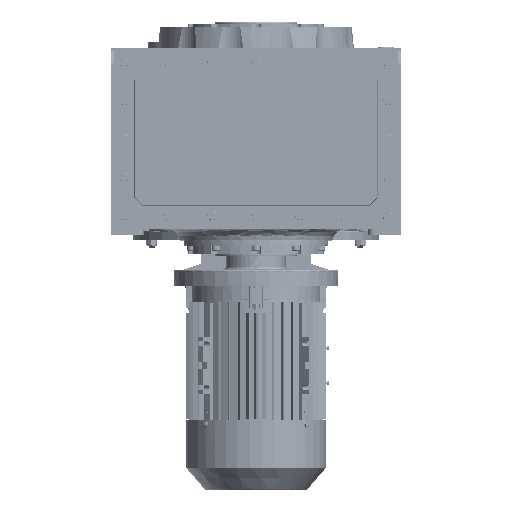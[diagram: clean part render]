
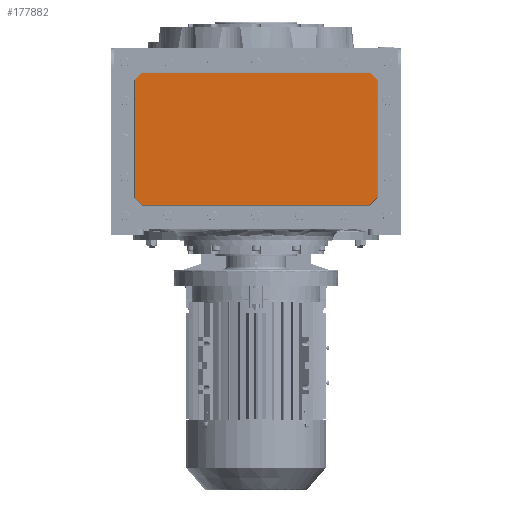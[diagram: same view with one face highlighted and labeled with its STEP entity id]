
A CAD part, front view. The second image highlights one B-rep face of the part: STEP entity #177882.
In plain terms, the highlighted planar face has unit normal (0, -1, 0).
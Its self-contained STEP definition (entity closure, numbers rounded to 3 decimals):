
#13528 = PLANE ( 'NONE',  #183166 ) ;
#13532 = CARTESIAN_POINT ( 'NONE',  ( 0., -227., 0. ) ) ;
#13536 = DIRECTION ( 'NONE',  ( 0., -1., 0. ) ) ;
#13540 = DIRECTION ( 'NONE',  ( 0., 0., -1. ) ) ;
#24900 = ORIENTED_EDGE ( 'NONE', *, *, #153001, .F. ) ;
#24902 = ORIENTED_EDGE ( 'NONE', *, *, #153150, .F. ) ;
#24918 = ORIENTED_EDGE ( 'NONE', *, *, #153132, .F. ) ;
#24941 = ORIENTED_EDGE ( 'NONE', *, *, #152978, .F. ) ;
#24987 = ORIENTED_EDGE ( 'NONE', *, *, #153059, .F. ) ;
#24993 = ORIENTED_EDGE ( 'NONE', *, *, #153153, .F. ) ;
#24994 = ORIENTED_EDGE ( 'NONE', *, *, #153141, .F. ) ;
#24996 = ORIENTED_EDGE ( 'NONE', *, *, #153511, .F. ) ;
#41158 = EDGE_LOOP ( 'NONE', ( #24987, #24918, #24941, #24994, #24900, #24902, #24993, #24996 ) ) ;
#92160 = DIRECTION ( 'NONE',  ( -0.707, 0., 0.707 ) ) ;
#96012 = LINE ( 'NONE', #97028, #96033 ) ;
#96014 = LINE ( 'NONE', #97064, #96016 ) ;
#96016 = VECTOR ( 'NONE', #97089, 1000. ) ;
#96033 = VECTOR ( 'NONE', #97033, 1000. ) ;
#96036 = LINE ( 'NONE', #97104, #96037 ) ;
#96037 = VECTOR ( 'NONE', #97127, 1000. ) ;
#96075 = LINE ( 'NONE', #98125, #96102 ) ;
#96094 = VECTOR ( 'NONE', #92160, 1000. ) ;
#96102 = VECTOR ( 'NONE', #98132, 1000. ) ;
#96110 = LINE ( 'NONE', #97250, #96094 ) ;
#96123 = VECTOR ( 'NONE', #97244, 1000. ) ;
#96124 = LINE ( 'NONE', #97236, #96146 ) ;
#96146 = VECTOR ( 'NONE', #97252, 1000. ) ;
#96153 = LINE ( 'NONE', #97255, #96123 ) ;
#96314 = VECTOR ( 'NONE', #98522, 1000. ) ;
#96347 = LINE ( 'NONE', #98497, #96314 ) ;
#97028 = CARTESIAN_POINT ( 'NONE',  ( -208., -227., 291.178 ) ) ;
#97033 = DIRECTION ( 'NONE',  ( 1., 0., 0. ) ) ;
#97064 = CARTESIAN_POINT ( 'NONE',  ( -220.928, -227., 278.25 ) ) ;
#97089 = DIRECTION ( 'NONE',  ( 0., 0., 1. ) ) ;
#97104 = CARTESIAN_POINT ( 'NONE',  ( 220.928, -227., 278.25 ) ) ;
#97127 = DIRECTION ( 'NONE',  ( 0., 0., -1. ) ) ;
#97236 = CARTESIAN_POINT ( 'NONE',  ( 207.242, -227., 291.492 ) ) ;
#97244 = DIRECTION ( 'NONE',  ( 0.707, 0., 0.707 ) ) ;
#97250 = CARTESIAN_POINT ( 'NONE',  ( -221.242, -227., 63.008 ) ) ;
#97252 = DIRECTION ( 'NONE',  ( 0.707, 0., -0.707 ) ) ;
#97255 = CARTESIAN_POINT ( 'NONE',  ( -207.242, -227., 291.492 ) ) ;
#98125 = CARTESIAN_POINT ( 'NONE',  ( -208., -227., 49.322 ) ) ;
#98132 = DIRECTION ( 'NONE',  ( -1., 0., 0. ) ) ;
#98497 = CARTESIAN_POINT ( 'NONE',  ( 221.242, -227., 63.008 ) ) ;
#98522 = DIRECTION ( 'NONE',  ( -0.707, 0., -0.707 ) ) ;
#136942 = VERTEX_POINT ( 'NONE', #165200 ) ;
#136949 = VERTEX_POINT ( 'NONE', #165183 ) ;
#136951 = VERTEX_POINT ( 'NONE', #165173 ) ;
#136975 = VERTEX_POINT ( 'NONE', #165201 ) ;
#137004 = VERTEX_POINT ( 'NONE', #165263 ) ;
#137045 = VERTEX_POINT ( 'NONE', #165301 ) ;
#137058 = VERTEX_POINT ( 'NONE', #165350 ) ;
#137113 = VERTEX_POINT ( 'NONE', #165370 ) ;
#152978 = EDGE_CURVE ( 'NONE', #136975, #136951, #96012, .T. ) ;
#153001 = EDGE_CURVE ( 'NONE', #136942, #137058, #96014, .T. ) ;
#153059 = EDGE_CURVE ( 'NONE', #137004, #137045, #96036, .T. ) ;
#153132 = EDGE_CURVE ( 'NONE', #136951, #137004, #96124, .T. ) ;
#153141 = EDGE_CURVE ( 'NONE', #137058, #136975, #96153, .T. ) ;
#153150 = EDGE_CURVE ( 'NONE', #136949, #136942, #96110, .T. ) ;
#153153 = EDGE_CURVE ( 'NONE', #137113, #136949, #96075, .T. ) ;
#153511 = EDGE_CURVE ( 'NONE', #137045, #137113, #96347, .T. ) ;
#165173 = CARTESIAN_POINT ( 'NONE',  ( 207.556, -227., 291.178 ) ) ;
#165183 = CARTESIAN_POINT ( 'NONE',  ( -207.556, -227., 49.322 ) ) ;
#165200 = CARTESIAN_POINT ( 'NONE',  ( -220.928, -227., 62.694 ) ) ;
#165201 = CARTESIAN_POINT ( 'NONE',  ( -207.556, -227., 291.178 ) ) ;
#165263 = CARTESIAN_POINT ( 'NONE',  ( 220.928, -227., 277.806 ) ) ;
#165301 = CARTESIAN_POINT ( 'NONE',  ( 220.928, -227., 62.694 ) ) ;
#165350 = CARTESIAN_POINT ( 'NONE',  ( -220.928, -227., 277.806 ) ) ;
#165370 = CARTESIAN_POINT ( 'NONE',  ( 207.556, -227., 49.322 ) ) ;
#177882 = ADVANCED_FACE ( 'NONE', ( #185738 ), #13528, .T. ) ;
#183166 = AXIS2_PLACEMENT_3D ( 'NONE', #13532, #13536, #13540 ) ;
#185738 = FACE_OUTER_BOUND ( 'NONE', #41158, .T. ) ;
